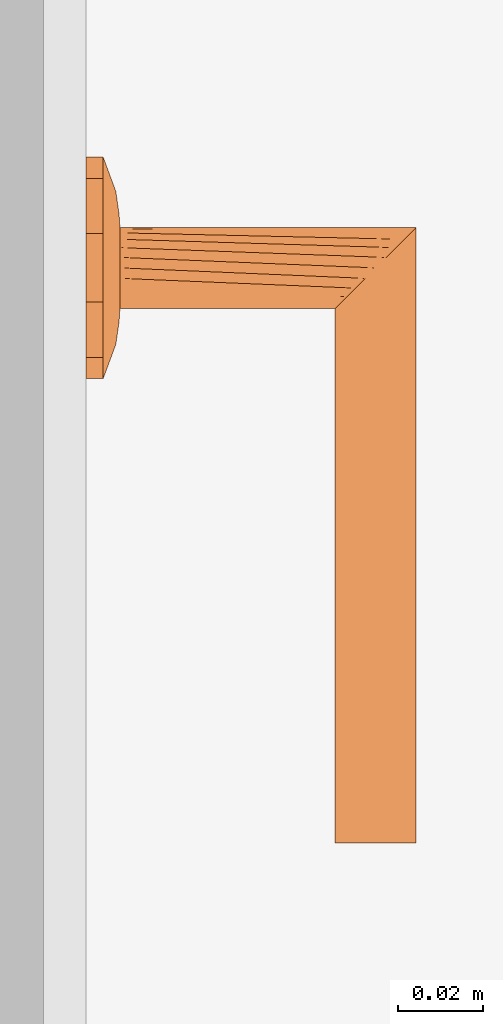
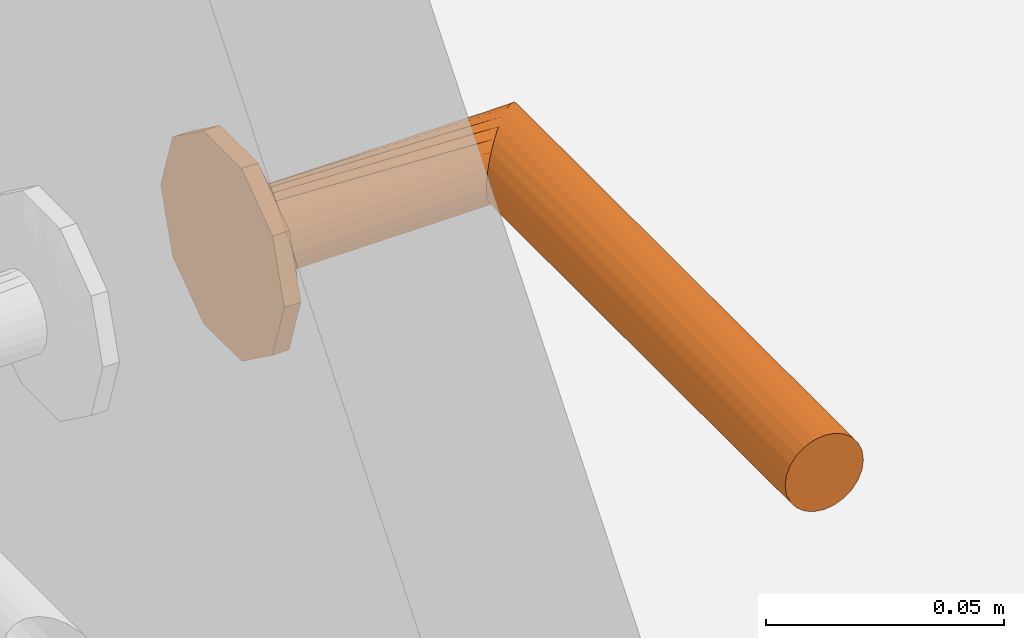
# One storey, part 50 of 57: 1 proxy.
"""IFC2X3 building model written with IfcOpenShell, lengths in millimetres."""

import ifcopenshell
import ifcopenshell.guid

model = None  # the IFC model being written
_history = None  # IfcOwnerHistory: only IFC2X3 demands one
_inside = {}  # id of a spatial element -> (the spatial element, [elements in it])
_under = {}  # id of a project, library or spatial element -> (it, [spatial elements below it])
_declared = {}  # id of a project -> (the project, [libraries it declares])
_typed = {}  # id of a type object -> (the type object, [elements of that type])
_made_of = {}  # id of a material, layer set ... -> (it, [elements and type objects made of it])


def new_model(schema):
    """Start an empty IFC model of exactly this schema.

    Asked for "IFC4X3", IfcOpenShell would pick the latest addendum, in which some entities
    have other attributes; the version numbers below select the first issue.
    IFC2X3 requires an IfcOwnerHistory on every rooted entity: one is made here for all.
    """
    global model, _history
    if schema == "IFC4X3":
        model = ifcopenshell.file(schema_version=(4, 3, 0, 0))
    else:
        model = ifcopenshell.file(schema=schema)
    _inside.clear()
    _under.clear()
    _declared.clear()
    _typed.clear()
    _made_of.clear()
    _history = None
    if model.schema == "IFC2X3":
        org = make("IfcOrganization", Name="unknown")
        user = make(
            "IfcPersonAndOrganization",
            ThePerson=make("IfcPerson", FamilyName="unknown"),
            TheOrganization=org,
        )
        app = make(
            "IfcApplication",
            ApplicationDeveloper=org,
            Version="unknown",
            ApplicationFullName="unknown",
            ApplicationIdentifier="unknown",
        )
        _history = make(
            "IfcOwnerHistory",
            OwningUser=user,
            OwningApplication=app,
            ChangeAction="ADDED",
            CreationDate=0,
        )
    return model


def make(cls, **values):
    """One entity of the class cls with the attributes given. An attribute that is None is left unset."""
    return model.create_entity(
        cls, **{name: value for name, value in values.items() if value is not None}
    )


def entity(cls, *values):
    """Any entity or typed value of the class cls, its attributes in the order of the schema. None: left unset."""
    e = model.create_entity(cls)
    for i, value in enumerate(values):
        if value is not None:
            e[i] = value
    return e


def rooted(cls, **values):
    """An entity with a GlobalId (a new one), such as an element, a storey or a relation."""
    return make(cls, GlobalId=ifcopenshell.guid.new(), OwnerHistory=_history, **values)


def si_unit(unit_type, name, prefix=None):
    """IfcSIUnit, for example si_unit("LENGTHUNIT", "METRE", prefix="MILLI")."""
    return make("IfcSIUnit", UnitType=unit_type, Prefix=prefix, Name=name)


def converted_unit(unit_type, name, factor, base, dimensions=None, offset=None):
    """IfcConversionBasedUnit, such as the inch: factor (a typed value) times the base unit."""
    return make(
        "IfcConversionBasedUnit"
        if offset is None
        else "IfcConversionBasedUnitWithOffset",
        ConversionOffset=offset,
        Dimensions=None
        if dimensions is None
        else entity("IfcDimensionalExponents", *dimensions),
        UnitType=unit_type,
        Name=name,
        ConversionFactor=make(
            "IfcMeasureWithUnit", ValueComponent=factor, UnitComponent=base
        ),
    )


def assignment(units):
    """IfcUnitAssignment: the units of a project."""
    return None if units is None else make("IfcUnitAssignment", Units=units)


def point(xyz):
    """IfcCartesianPoint."""
    return None if xyz is None else make("IfcCartesianPoint", Coordinates=xyz)


def direction(xyz):
    """IfcDirection."""
    return None if xyz is None else make("IfcDirection", DirectionRatios=xyz)


def frame(location, z_axis=None, x_axis=None):
    """IfcAxis2Placement3D, a coordinate frame: its origin and axes. An axis left out is left unset."""
    return make(
        "IfcAxis2Placement3D",
        Location=point(location),
        Axis=direction(z_axis),
        RefDirection=direction(x_axis),
    )


def origin():
    """The frame at (0, 0, 0) with its axes left unset."""
    return frame((0.0, 0.0, 0.0))


def place(relative_to, where):
    """IfcLocalPlacement: puts the frame where relative to a parent placement (None: the world)."""
    return make(
        "IfcLocalPlacement", PlacementRelTo=relative_to, RelativePlacement=where
    )


def context(
    kind, dimensions, precision=None, world=None, true_north=None, identifier=None
):
    """IfcGeometricRepresentationContext, for example the 3D "Model" context."""
    return make(
        "IfcGeometricRepresentationContext",
        ContextIdentifier=identifier,
        ContextType=kind,
        CoordinateSpaceDimension=dimensions,
        Precision=precision,
        WorldCoordinateSystem=world,
        TrueNorth=true_north,
    )


def subcontext(parent, identifier, kind, view, scale=None):
    """IfcGeometricRepresentationSubContext, for example "Body" below "Model"."""
    return make(
        "IfcGeometricRepresentationSubContext",
        ContextIdentifier=identifier,
        ContextType=kind,
        ParentContext=parent,
        TargetScale=scale,
        TargetView=view,
    )


def project(units=None, contexts=None):
    """IfcProject with its units and contexts."""
    return rooted(
        "IfcProject",
        Name="project",
        RepresentationContexts=contexts,
        UnitsInContext=assignment(units),
    )


def spatial(cls, under=None, at=None, **own):
    """A site, building, storey or space (cls), placed at a placement, below another one or the project."""
    s = rooted(cls, ObjectPlacement=at, **own)
    if under is not None:
        _under.setdefault(under.id(), (under, []))[1].append(s)
    return s


def faces_of(points, faces, orient=None, outer=None):
    """IfcFace entities. A face is a list of loops; a loop is a list of indices into points, from 0.

    orient and outer hold one flag for each loop. By default every Orientation is true, the
    first loop of a face is its IfcFaceOuterBound and the others are IfcFaceBound.
    """
    made = []
    for i, loops in enumerate(faces):
        bounds = []
        for j, loop in enumerate(loops):
            is_outer = j == 0 if outer is None else outer[i][j]
            bounds.append(
                make(
                    "IfcFaceOuterBound" if is_outer else "IfcFaceBound",
                    Bound=make("IfcPolyLoop", Polygon=[points[k] for k in loop]),
                    Orientation=True if orient is None else orient[i][j],
                )
            )
        made.append(make("IfcFace", Bounds=bounds))
    return made


def faceted_brep(points, faces, orient=None, outer=None, voids=None):
    """IfcFacetedBrep: a solid bounded by flat faces; with voids (closed shells), ...WithVoids."""
    shared = [point(p) for p in points]
    hull = make("IfcClosedShell", CfsFaces=faces_of(shared, faces, orient, outer))
    if voids is None:
        return make("IfcFacetedBrep", Outer=hull)
    return make(
        "IfcFacetedBrepWithVoids",
        Outer=hull,
        Voids=[
            make(cls, CfsFaces=faces_of(shared, fs, o, b)) for cls, fs, o, b in voids
        ],
    )


def shape(context_of_items, identifier, shape_type, items):
    """IfcShapeRepresentation: the items that make up one representation, for example the "Body"."""
    return make(
        "IfcShapeRepresentation",
        ContextOfItems=context_of_items,
        RepresentationIdentifier=identifier,
        RepresentationType=shape_type,
        Items=items,
    )


def source(mapping_origin, context_of_items, identifier, shape_type, items):
    """IfcRepresentationMap: a shape defined once, which mapped items show again and again."""
    return make(
        "IfcRepresentationMap",
        MappingOrigin=mapping_origin,
        MappedRepresentation=shape(context_of_items, identifier, shape_type, items),
    )


def transform(
    local_origin,
    x_axis=None,
    y_axis=None,
    z_axis=None,
    scale=None,
    scale2=None,
    scale3=None,
    uniform=True,
):
    """IfcCartesianTransformationOperator3D, or its non-uniform kind. x_axis, y_axis, z_axis: its Axis1, 2, 3."""
    if uniform:
        return make(
            "IfcCartesianTransformationOperator3D",
            Axis1=direction(x_axis),
            Axis2=direction(y_axis),
            LocalOrigin=point(local_origin),
            Scale=scale,
            Axis3=direction(z_axis),
        )
    return make(
        "IfcCartesianTransformationOperator3DnonUniform",
        Axis1=direction(x_axis),
        Axis2=direction(y_axis),
        LocalOrigin=point(local_origin),
        Scale=scale,
        Axis3=direction(z_axis),
        Scale2=scale2,
        Scale3=scale3,
    )


def mapped(mapping_source, mapping_target):
    """IfcMappedItem: shows the shape of a source again, moved by a transform."""
    return make(
        "IfcMappedItem", MappingSource=mapping_source, MappingTarget=mapping_target
    )


def material(Name=None, Category=None):
    """IfcMaterial."""
    return make("IfcMaterial", Name=Name, Category=Category)


def made_of(thing, what):
    """Note that an element or type object is made of a material, layer set ...; save() writes the relation."""
    if what is not None:
        _made_of.setdefault(what.id(), (what, []))[1].append(thing)
    return thing


def type_object(cls, material=None, **own):
    """A type object (cls), such as IfcWallType, which elements share."""
    return made_of(rooted(cls, **own), material)


def type_shapes(of_type, sources):
    """Give a type object the sources (RepresentationMaps) that its elements show as mapped items."""
    of_type.RepresentationMaps = sources


def element(
    cls,
    number,
    at=None,
    inside=None,
    cuts=None,
    type_object=None,
    material=None,
    context=None,
    identifier="Body",
    shape_type=None,
    held_by="IfcProductDefinitionShape",
    body=None,
    shapes=None,
    **own,
):
    """One element of the class cls, such as IfcWall. Its Tag is "e" and its number.

    at: its placement. inside: the storey or other place that contains it. cuts: it is an
    opening in that element (IfcRelVoidsElement). A single representation is given by context,
    identifier, shape_type and body (its items); several are given by shapes. held_by: the class
    of the entity that holds the representations. save() writes the other relations.
    """
    e = rooted(cls, Tag="e%d" % number, ObjectPlacement=at, **own)
    if body is not None:
        shapes = [shape(context, identifier, shape_type, body)]
    if shapes is not None:
        e.Representation = make(held_by, Representations=shapes)
    if inside is not None:
        _inside.setdefault(inside.id(), (inside, []))[1].append(e)
    if cuts is not None:
        rooted(
            "IfcRelVoidsElement", RelatingBuildingElement=cuts, RelatedOpeningElement=e
        )
    if type_object is not None:
        _typed.setdefault(type_object.id(), (type_object, []))[1].append(e)
    return made_of(e, material)


def aggregate(whole, parts):
    """IfcRelAggregates: a whole, such as a stair, and the parts it consists of."""
    return rooted("IfcRelAggregates", RelatingObject=whole, RelatedObjects=parts)


def save(model, path):
    """Write the relations noted so far, then the file.

    IfcRelAggregates (storeys below a building ...), IfcRelContainedInSpatialStructure (elements
    in a storey), IfcRelDefinesByType, IfcRelAssociatesMaterial and IfcRelDeclares: one each for
    every whole, place, type object, material and project.
    """
    for whole, parts in _under.values():
        aggregate(whole, parts)
    for where, things in _inside.values():
        rooted(
            "IfcRelContainedInSpatialStructure",
            RelatedElements=things,
            RelatingStructure=where,
        )
    for kind, things in _typed.values():
        rooted("IfcRelDefinesByType", RelatedObjects=things, RelatingType=kind)
    for what, things in _made_of.values():
        rooted("IfcRelAssociatesMaterial", RelatedObjects=things, RelatingMaterial=what)
    for by, libraries in _declared.values():
        rooted("IfcRelDeclares", RelatingContext=by, RelatedDefinitions=libraries)
    model.write(path)


model = new_model("IFC2X3")

# Units and contexts
model_context = context("Model", 3, precision=0.01, world=origin(), true_north=direction((6.123233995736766e-17, 1.0)))
plan_context = context("Plan", 3, precision=0.01, world=origin(), true_north=direction((6.123233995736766e-17, 1.0)))
body_context = subcontext(model_context, "Body", "Model", "MODEL_VIEW")
ifc_project = project(units=[si_unit("LENGTHUNIT", "METRE", prefix="MILLI"), converted_unit("PLANEANGLEUNIT", "DEGREE", entity("IfcPlaneAngleMeasure", 0.017453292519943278), si_unit("PLANEANGLEUNIT", "RADIAN"), dimensions=[0, 0, 0, 0, 0, 0, 0]), si_unit("AREAUNIT", "SQUARE_METRE")], contexts=[model_context, plan_context])

# Site, building, storey, space
site_placement = place(None, origin())
site = spatial("IfcSite", under=ifc_project, at=site_placement, Name="Default", CompositionType="ELEMENT")
building_placement = place(site_placement, origin())
building = spatial("IfcBuilding", under=site, at=building_placement, CompositionType="ELEMENT")
storey_placement = place(building_placement, frame((0.0, 0.0, 12811.000000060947)))
storey = spatial("IfcBuildingStorey", under=building, at=storey_placement, Name="5K", CompositionType="ELEMENT", Elevation=12811.000000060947)
space_placement = place(storey_placement, origin())
space = spatial("IfcSpace", under=storey, at=space_placement, Name="5-12.6", CompositionType="ELEMENT", InteriorOrExteriorSpace="INTERNAL")

# Proxy
ifc_material = material(Name="<Unnamed>")
building_element_proxy_type = type_object("IfcBuildingElementProxyType", Name="Door-handle_Lever_ABLOY_INOXI_3-19ss-002_RT:Default", PredefinedType="NOTDEFINED", material=ifc_material)
shared_shape = source(origin(), body_context, "Body", "Brep", [
    faceted_brep([(0.0, 0.0, 0.0), (21.034441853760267, -15.282416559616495, 0.0), (14.534441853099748, -20.00494299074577, 0.0), (8.034441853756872, -24.72746942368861, 0.0), (0.0, -24.72746942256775, 0.0), (23.51722092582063, -7.6412082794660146, 0.0), (26.0, 0.0, 0.0), (-8.034441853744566, -24.727469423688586, 0.0), (-14.534441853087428, -20.00494299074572, 0.0), (-21.03444185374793, -15.282416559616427, 0.0), (-23.517220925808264, -7.641208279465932, 0.0), (-26.0, 0.0, 0.0), (-23.517220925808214, 7.641208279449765, 0.0), (23.517220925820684, 7.641208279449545, 0.0), (21.034441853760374, 15.282416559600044, 0.0), (14.53444185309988, 20.00494299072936, 0.0), (8.034441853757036, 24.72746942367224, 0.0), (-21.034441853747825, 15.282416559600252, 0.0), (-14.53444185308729, 20.004942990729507, 0.0), (-8.0344418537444, 24.72746942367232, 0.0), (0.0, 24.72746942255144, 0.0), (0.0, 0.0, 8.0), (4.7500000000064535, -8.227241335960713, 8.0), (5.937500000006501, -6.170431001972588, 8.0), (7.125000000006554, -4.113620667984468, 8.0), (8.312500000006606, -2.0568103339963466, 8.0), (9.500000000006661, 0.0, 8.0), (8.312500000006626, 2.056810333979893, 8.0), (2.3750000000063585, -8.227241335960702, 8.0), (0.0, -8.227241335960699, 8.0), (-2.3749999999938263, -8.227241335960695, 8.0), (-4.749999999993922, -8.227241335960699, 8.0), (-5.937499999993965, -6.170431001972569, 8.0), (-7.124999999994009, -4.113620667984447, 8.0), (-8.312499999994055, -2.056810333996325, 8.0), (-9.499999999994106, 0.0, 8.0), (7.125000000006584, 4.113620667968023, 8.0), (5.937500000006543, 6.170431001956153, 8.0), (4.750000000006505, 8.227241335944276, 8.0), (2.3750000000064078, 8.22724133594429, 8.0), (-8.31249999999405, 2.0568103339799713, 8.0), (-7.12499999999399, 4.113620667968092, 8.0), (-5.9374999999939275, 6.170431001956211, 8.0), (-4.74999999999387, 8.227241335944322, 8.0), (0.0, 8.227241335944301, 8.0), (-2.374999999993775, 8.227241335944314, 8.0), (-22.488765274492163, -10.806469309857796, 4.030771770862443), (-16.663919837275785, -7.932665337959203, 6.877259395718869), (-20.643071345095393, -6.292822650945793, 5.929480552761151), (-12.50457926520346, -5.179566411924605, 7.774932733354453), (-16.764060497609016, -3.820257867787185, 7.1747985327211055), (-9.071726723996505, -10.311606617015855, 7.7520782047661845), (-11.963426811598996, -8.625290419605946, 7.618343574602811), (-11.979136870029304, -13.678312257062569, 6.945778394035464), (5.7585542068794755, -20.96753300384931, 5.871476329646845), (0.0, -24.72746942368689, 4.030771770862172), (8.03444185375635, -24.727469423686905, 4.030771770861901), (16.66391982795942, -7.932665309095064, 6.877259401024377), (22.488765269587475, -10.806469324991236, 4.03077177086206), (20.64307133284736, -6.29282258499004, 5.929480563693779), (14.534441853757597, -20.004942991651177, 4.030771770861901), (9.499431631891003, -18.64368355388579, 6.154325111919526), (-15.783149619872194, -11.991003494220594, 6.50080018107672), (-21.034441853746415, -15.282416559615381, 4.030771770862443), (-14.53444185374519, -20.00494299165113, 4.030771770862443), (-23.012042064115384, 0.0, 5.135401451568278), (-23.943088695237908, -6.330522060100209, 4.030771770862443), (11.96342678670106, -8.62529049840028, 7.618343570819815), (12.504579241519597, -5.179566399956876, 7.774932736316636), (16.764060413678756, -3.8202578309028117, 7.17479855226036), (15.783149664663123, -11.991003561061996, 6.50080015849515), (17.985351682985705, 0.0, 6.993737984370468), (23.012042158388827, 0.0, 5.135401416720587), (8.661516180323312, -10.478936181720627, 7.768126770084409), (-8.03444185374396, -24.727469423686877, 4.030771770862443), (-3.3573143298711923, -21.197247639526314, 5.971427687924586), (-9.941915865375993, -17.061976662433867, 6.522757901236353), (-5.973257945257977, -16.430139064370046, 7.110979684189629), (-7.711266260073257, -12.760344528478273, 7.594456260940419), (11.979136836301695, -13.678312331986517, 6.945778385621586), (7.511307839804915, -13.358932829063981, 7.529187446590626), (5.953298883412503, -16.50608604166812, 7.096344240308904), (-1.5654593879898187, -15.307443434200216, 7.519134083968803), (-7.784980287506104, -20.476295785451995, 5.812837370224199), (2.8135289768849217, -17.76392260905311, 6.993737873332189), (-17.98535168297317, 0.0, 6.993737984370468), (-26.0, 0.0, 4.030771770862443), (-23.51722092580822, -7.641208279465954, 4.030771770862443), (23.943088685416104, -6.33052209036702, 4.030771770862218), (24.308823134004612, -5.204907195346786, 4.030771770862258), (26.0, 0.0, 4.030771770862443), (21.03444185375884, -15.282416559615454, 4.030771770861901), (22.617646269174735, -10.40981439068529, 4.030771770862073), (22.488765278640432, 10.806469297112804, 4.030771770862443), (16.66391984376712, 7.932665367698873, 6.877259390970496), (20.643071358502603, 6.292822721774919, 5.929480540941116), (12.504579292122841, 5.179566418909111, 7.774932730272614), (16.764060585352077, 3.8202579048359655, 7.174798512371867), (9.07172672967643, 10.31160659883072, 7.752078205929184), (11.963426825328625, 8.62529034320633, 7.618343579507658), (11.979136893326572, 13.67831220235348, 6.9457784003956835), (-5.758554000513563, 20.96753314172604, 5.8714763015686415), (0.0, 24.72746942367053, 4.030771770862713), (-8.03444185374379, 24.72746942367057, 4.030771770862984), (-16.663919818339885, 7.932665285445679, 6.877259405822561), (-22.48876526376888, 10.806469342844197, 4.030771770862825), (-20.643071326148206, 6.2928225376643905, 5.929480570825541), (-14.534441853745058, 20.004942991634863, 4.030771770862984), (-9.499431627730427, 18.643683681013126, 6.154325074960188), (15.783149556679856, 11.991003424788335, 6.5008002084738), (21.03444185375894, 15.282416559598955, 4.030771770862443), (14.534441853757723, 20.004942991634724, 4.030771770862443), (23.943088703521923, 6.330522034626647, 4.030771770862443), (-11.96342675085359, 8.625290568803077, 7.618343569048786), (-12.504579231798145, 5.179566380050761, 7.77493273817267), (-16.764060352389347, 3.820257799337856, 7.174798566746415), (-15.78314967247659, 11.991003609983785, 6.500800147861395), (-8.661516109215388, 10.478936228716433, 7.768126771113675), (8.034441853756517, 24.727469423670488, 4.030771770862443), (3.3573144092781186, 21.197247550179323, 5.971427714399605), (9.941915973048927, 17.061976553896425, 6.522757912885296), (5.9732581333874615, 16.430139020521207, 7.110979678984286), (7.711266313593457, 12.760344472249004, 7.5944562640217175), (-11.979136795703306, 13.678312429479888, 6.945778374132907), (-7.511307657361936, 13.358932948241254, 7.5291874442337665), (-5.9532988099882, 16.50608628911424, 7.096344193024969), (1.5654596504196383, 15.3074431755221, 7.519134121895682), (7.784980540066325, 20.476295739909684, 5.812837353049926), (-2.81352881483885, 17.76392263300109, 6.993737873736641), (23.51722092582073, 7.6412082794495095, 4.030771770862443), (-23.94308867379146, 6.330522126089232, 4.030771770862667), (-24.308823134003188, 5.20490719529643, 4.030771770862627), (-21.034441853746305, 15.282416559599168, 4.030771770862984), (-22.617646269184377, 10.409814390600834, 4.0307717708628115)], [[[0, 1, 2]], [[0, 2, 3]], [[0, 3, 4]], [[0, 5, 1]], [[0, 6, 5]], [[0, 4, 7]], [[0, 7, 8]], [[0, 8, 9]], [[0, 9, 10]], [[0, 10, 11]], [[0, 11, 12]], [[0, 13, 6]], [[0, 14, 13]], [[0, 15, 14]], [[0, 16, 15]], [[0, 12, 17]], [[0, 17, 18]], [[0, 18, 19]], [[0, 19, 20]], [[0, 20, 16]], [[21, 22, 23]], [[21, 23, 24]], [[21, 24, 25]], [[21, 25, 26]], [[21, 26, 27]], [[21, 28, 22]], [[21, 29, 28]], [[21, 30, 29]], [[21, 31, 30]], [[21, 32, 31]], [[21, 33, 32]], [[21, 34, 33]], [[21, 35, 34]], [[21, 27, 36]], [[21, 36, 37]], [[21, 37, 38]], [[21, 38, 39]], [[21, 40, 35]], [[21, 41, 40]], [[21, 42, 41]], [[21, 43, 42]], [[21, 39, 44]], [[21, 44, 45]], [[21, 45, 43]], [[46, 47, 48]], [[47, 49, 50]], [[49, 33, 34]], [[51, 52, 53]], [[49, 52, 33]], [[48, 47, 50]], [[54, 55, 56]], [[57, 58, 59]], [[56, 60, 61]], [[62, 63, 64]], [[65, 66, 48]], [[67, 57, 68]], [[68, 69, 25]], [[57, 67, 70]], [[69, 26, 25]], [[62, 53, 52]], [[71, 69, 72]], [[67, 23, 73]], [[74, 55, 75]], [[76, 77, 78]], [[79, 60, 70]], [[69, 59, 72]], [[80, 81, 61]], [[77, 30, 78]], [[82, 30, 77]], [[28, 80, 22]], [[77, 83, 75]], [[75, 82, 77]], [[55, 84, 75]], [[85, 50, 35]], [[24, 68, 25]], [[82, 84, 29]], [[84, 82, 75]], [[31, 78, 30]], [[82, 29, 30]], [[34, 35, 50]], [[52, 49, 47]], [[62, 52, 47]], [[34, 50, 49]], [[53, 78, 51]], [[32, 33, 52]], [[85, 65, 50]], [[66, 65, 86]], [[67, 68, 24]], [[77, 76, 83]], [[65, 48, 50]], [[63, 62, 46]], [[48, 66, 87, 46]], [[62, 47, 46]], [[69, 68, 57]], [[80, 73, 22]], [[70, 67, 79]], [[67, 24, 23]], [[72, 88, 89, 90]], [[69, 71, 26]], [[59, 69, 57]], [[61, 60, 79]], [[62, 64, 53]], [[91, 58, 70]], [[72, 59, 88]], [[57, 70, 58]], [[59, 58, 92]], [[80, 61, 79]], [[91, 70, 60]], [[61, 81, 54]], [[73, 80, 79]], [[28, 84, 81]], [[67, 73, 79]], [[29, 84, 28]], [[22, 73, 23]], [[51, 31, 32]], [[76, 78, 53]], [[53, 64, 76]], [[83, 64, 74]], [[64, 83, 76]], [[75, 83, 74]], [[31, 51, 78]], [[52, 51, 32]], [[28, 81, 80]], [[54, 81, 84]], [[55, 54, 84]], [[61, 54, 56]], [[93, 94, 95]], [[94, 96, 97]], [[96, 36, 27]], [[98, 99, 100]], [[96, 99, 36]], [[95, 94, 97]], [[101, 102, 103]], [[104, 105, 106]], [[103, 107, 108]], [[109, 110, 111]], [[72, 112, 95]], [[113, 104, 114]], [[114, 115, 40]], [[104, 113, 116]], [[115, 35, 40]], [[109, 100, 99]], [[85, 115, 65]], [[113, 42, 117]], [[118, 102, 119]], [[120, 121, 122]], [[123, 107, 116]], [[115, 106, 65]], [[124, 125, 108]], [[121, 39, 122]], [[126, 39, 121]], [[45, 124, 43]], [[121, 127, 119]], [[119, 126, 121]], [[102, 128, 119]], [[71, 97, 26]], [[41, 114, 40]], [[126, 128, 44]], [[128, 126, 119]], [[38, 122, 39]], [[126, 44, 39]], [[27, 26, 97]], [[99, 96, 94]], [[109, 99, 94]], [[27, 97, 96]], [[100, 122, 98]], [[37, 36, 99]], [[71, 72, 97]], [[112, 72, 90]], [[113, 114, 41]], [[121, 120, 127]], [[72, 95, 97]], [[110, 109, 93]], [[95, 112, 129, 93]], [[109, 94, 93]], [[115, 114, 104]], [[124, 117, 43]], [[116, 113, 123]], [[113, 41, 42]], [[65, 130, 131, 86]], [[115, 85, 35]], [[106, 115, 104]], [[108, 107, 123]], [[109, 111, 100]], [[132, 105, 116]], [[65, 106, 130]], [[104, 116, 105]], [[106, 105, 133]], [[124, 108, 123]], [[132, 116, 107]], [[108, 125, 101]], [[117, 124, 123]], [[45, 128, 125]], [[113, 117, 123]], [[44, 128, 45]], [[43, 117, 42]], [[98, 38, 37]], [[120, 122, 100]], [[100, 111, 120]], [[127, 111, 118]], [[111, 127, 120]], [[119, 127, 118]], [[38, 98, 122]], [[99, 98, 37]], [[45, 125, 124]], [[101, 125, 128]], [[102, 101, 128]], [[108, 101, 103]], [[7, 74, 64, 63, 9, 8]], [[10, 9, 63, 46, 87, 66, 86, 11]], [[6, 90, 89, 88, 92, 1, 5]], [[1, 58, 91]], [[74, 7, 4, 3, 56, 55]], [[60, 56, 3, 2, 1, 91]], [[1, 92, 58]], [[14, 110, 93, 129, 112, 90, 6, 13]], [[111, 110, 14, 15, 16, 118]], [[11, 86, 131, 130, 133, 17, 12]], [[17, 105, 132]], [[118, 16, 20, 19, 103, 102]], [[107, 103, 19, 18, 17, 132]], [[17, 133, 105]], [[59, 92, 88]], [[106, 133, 130]]]),
    faceted_brep([(4.7499999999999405, -8.22724133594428, 8.0), (2.4587809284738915, -9.176295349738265, 8.0), (0.0, -9.499999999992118, 8.0), (-2.4587809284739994, -9.176295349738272, 8.0), (-4.7500000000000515, -8.227241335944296, 8.0), (-6.717514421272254, -6.717514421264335, 8.0), (-8.227241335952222, -4.74999999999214, 8.0), (-9.176295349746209, -2.4587809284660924, 8.0), (-9.500000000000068, 0.0, 8.0), (-9.176295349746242, 2.458780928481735, 8.0), (-8.227241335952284, 4.750000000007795, 8.0), (-6.717514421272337, 6.717514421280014, 8.0), (-4.750000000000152, 8.227241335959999, 8.0), (-2.4587809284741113, 9.176295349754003, 8.0), (0.0, 9.500000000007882, 8.0), (2.4587809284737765, 9.176295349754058, 8.0), (4.7499999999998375, 8.227241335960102, 8.0), (6.717514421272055, 6.717514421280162, 8.0), (8.22724133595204, 4.75000000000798, 8.0), (9.17629534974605, 2.458780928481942, 8.0), (9.499999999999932, 0.0, 8.0), (9.17629534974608, -2.458780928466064, 8.0), (8.227241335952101, -4.749999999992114, 8.0), (6.717514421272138, -6.7175144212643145, 8.0), (-8.227241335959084, 4.7499999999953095, 59.772758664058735), (-6.717514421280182, 6.7175144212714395, 61.282485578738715), (-9.176295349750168, 2.458780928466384, 58.82370465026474), (-4.750000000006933, 8.227241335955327, 63.25000000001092), (-2.4587809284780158, 9.176295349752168, 65.54121907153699), (-9.500000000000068, 0.0, 58.50000000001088), (0.0, 9.50000000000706, 68.0), (4.750000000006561, 8.227241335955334, 72.75000000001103), (2.4587809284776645, 9.17629534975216, 70.45878092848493), (6.717514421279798, 6.7175144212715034, 74.71751442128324), (8.22724133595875, 4.749999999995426, 76.22724133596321), (9.17629534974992, 2.458780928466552, 77.17629534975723), (9.499999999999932, 0.0, 77.50000000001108), (9.176295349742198, -2.4587809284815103, 77.1762953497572), (8.227241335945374, -4.750000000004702, 76.22724133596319), (6.7175144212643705, -6.717514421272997, 74.7175144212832), (4.749999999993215, -8.227241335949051, 72.75000000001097), (2.4587809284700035, -9.17629534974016, 70.45878092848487), (0.0, -9.49999999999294, 68.0), (-2.4587809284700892, -9.176295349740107, 65.54121907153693), (-4.749999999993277, -8.227241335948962, 63.250000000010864), (-6.717514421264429, -6.717514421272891, 61.282485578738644), (-9.176295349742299, -2.458780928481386, 58.8237046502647), (-8.227241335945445, -4.750000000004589, 59.77275866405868), (-135.0, -9.176295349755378, 70.4587809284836), (-135.0, -8.227241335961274, 72.75000000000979), (-135.0, -6.717514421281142, 74.71751442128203), (-135.0, -4.750000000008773, 76.22724133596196), (-135.0, -2.4587809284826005, 77.17629534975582), (-135.0, 0.0, 77.5000000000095), (-135.0, 2.4587809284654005, 77.17629534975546), (-135.0, 4.749999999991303, 76.22724133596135), (-135.0, 6.717514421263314, 74.71751442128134), (-135.0, 8.227241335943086, 72.75000000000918), (-135.0, 9.17629534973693, 70.45878092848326), (-135.0, 9.499999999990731, 68.0), (-135.0, 9.17629534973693, 65.54121907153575), (-135.0, 8.227241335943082, 63.250000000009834), (-135.0, 6.717514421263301, 61.28248557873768), (-135.0, 4.749999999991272, 59.772758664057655), (-135.0, 2.458780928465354, 58.823704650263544), (-135.0, 0.0, 58.50000000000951), (-135.0, -2.458780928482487, 58.82370465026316), (-135.0, -4.750000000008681, 59.772758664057), (-135.0, -6.7175144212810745, 61.28248557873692), (-135.0, -8.227241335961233, 63.25000000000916), (-135.0, -9.176295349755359, 65.54121907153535), (-135.0, -9.500000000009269, 68.0)], [[[0, 1, 2, 3, 4, 5, 6, 7, 8, 9, 10, 11, 12, 13, 14, 15, 16, 17, 18, 19, 20, 21, 22, 23]], [[24, 25, 11, 10]], [[26, 24, 10, 9]], [[14, 27, 28]], [[13, 27, 14]], [[25, 27, 13]], [[29, 26, 9, 8]], [[12, 11, 25]], [[25, 13, 12]], [[28, 30, 15]], [[31, 17, 32]], [[33, 18, 31]], [[19, 34, 35]], [[33, 34, 19]], [[20, 19, 35, 36]], [[16, 15, 30]], [[14, 28, 15]], [[19, 18, 33]], [[17, 31, 18]], [[17, 16, 32]], [[30, 32, 16]], [[20, 36, 37, 21]], [[38, 21, 37]], [[22, 39, 40]], [[38, 39, 21]], [[23, 40, 41]], [[39, 22, 21]], [[1, 42, 43]], [[42, 1, 0]], [[23, 41, 0]], [[23, 22, 40]], [[41, 42, 0]], [[44, 45, 3]], [[43, 44, 2]], [[46, 29, 8, 7]], [[47, 46, 7, 6]], [[45, 47, 6, 5]], [[45, 4, 3]], [[3, 2, 44]], [[5, 4, 45]], [[43, 2, 1]], [[48, 49, 50, 51, 52, 53, 54, 55, 56, 57, 58, 59, 60, 61, 62, 63, 64, 65, 66, 67, 68, 69, 70, 71]], [[64, 63, 24, 26]], [[65, 64, 26, 29]], [[61, 60, 28, 27]], [[62, 61, 27, 25]], [[63, 62, 25, 24]], [[59, 30, 28, 60]], [[57, 56, 33, 31]], [[58, 57, 31, 32]], [[54, 53, 36, 35]], [[55, 54, 35, 34]], [[56, 55, 34, 33]], [[32, 30, 59, 58]], [[52, 51, 38, 37]], [[53, 52, 37, 36]], [[49, 48, 41, 40]], [[50, 49, 40, 39]], [[51, 50, 39, 38]], [[42, 41, 48, 71]], [[69, 68, 45, 44]], [[70, 69, 44, 43]], [[66, 65, 29, 46]], [[67, 66, 46, 47]], [[68, 67, 47, 45]], [[42, 71, 70, 43]]]),
])
type_shapes(building_element_proxy_type, [shared_shape])
proxy_placement = place(space_placement, frame((10710.0, 5930.0, 1000.0), z_axis=(1.0, 0.0, 0.0), x_axis=(0.0, 1.0, 0.0)))
element("IfcBuildingElementProxy", 1, at=proxy_placement, inside=space, type_object=building_element_proxy_type, material=ifc_material, Name="Door-handle_Lever_ABLOY_INOXI_3-19ss-002_RT:Default", ObjectType="Door-handle_Lever_ABLOY_INOXI_3-19ss-002_RT:Default", context=body_context, shape_type="MappedRepresentation", body=[
    mapped(shared_shape, transform((0.0, 0.0, 0.0), scale=1.0)),
])

save(model, "model.ifc")
